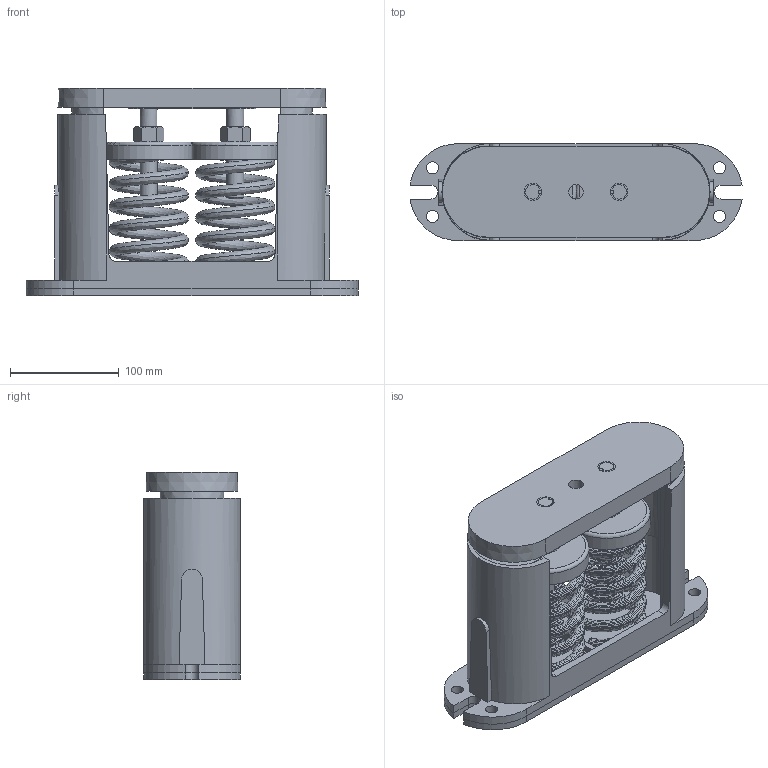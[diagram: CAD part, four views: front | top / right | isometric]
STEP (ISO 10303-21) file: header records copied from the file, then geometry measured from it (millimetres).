
FILE_DESCRIPTION(/* description */ (''),/* implementation_level */ '2;1');
FILE_NAME(/* name */ 'C:\001_Work\Designs\C MOUNTS\CI-D, D2\CI-D-C2-3740.stp',/* time_stamp */ '2015-12-07T16:57:36-05:00',/* author */ ('rramoutar'),/* organization */ ('Mason Industries Inc.'),/* preprocessor_version */ 'ST-DEVELOPER v15.6',/* originating_system */ 'Autodesk Inventor 2015',/* authorisation */ '');
FILE_SCHEMA (('CONFIG_CONTROL_DESIGN'));
Length unit declared in the file: inch
Products named in the file (1): CI-D-C2-3740
Bounding box: 304.8 x 88.9 x 190.5 mm (x, y, z)
Volume: 1289524.6 mm3; surface area: 407771.8 mm2
Topology: 1 solids, 3 shells, 287 faces, 757 edges, 487 vertices
Faces by surface type: plane 134, cylinder 65, bspline 48, cone 32, torus 8
Full cylindrical faces by diameter (mm): 11.112 x8, 13.386 x1, 15.875 x4, 16.669 x2, 25.4 x2, 73.819 x2
Entity records: 28595 total; most frequent: CARTESIAN_POINT 21668, ORIENTED_EDGE 1438, DIRECTION 1228, EDGE_CURVE 719, VERTEX_POINT 478, AXIS2_PLACEMENT_3D 459, EDGE_LOOP 349, LINE 310
